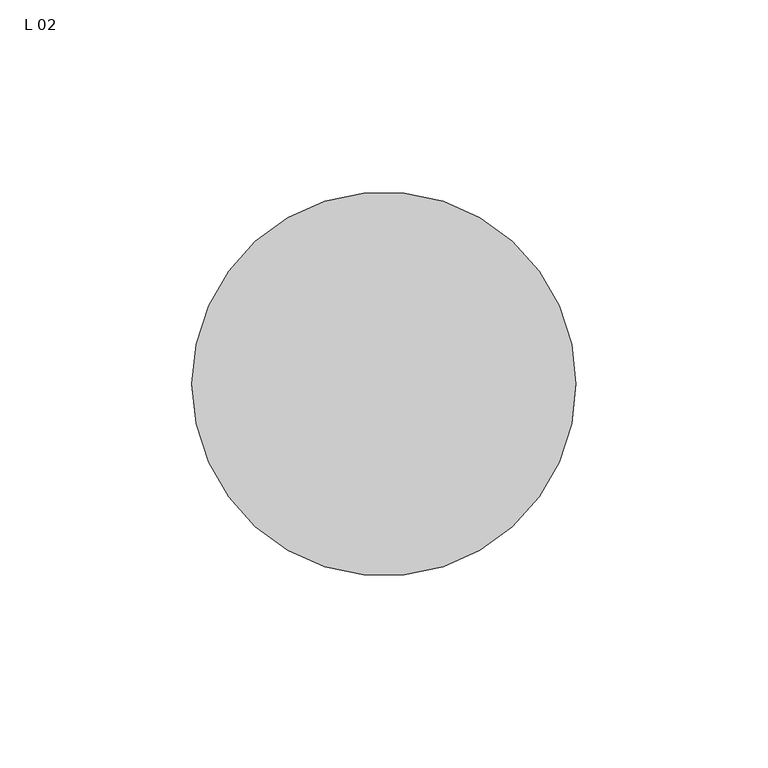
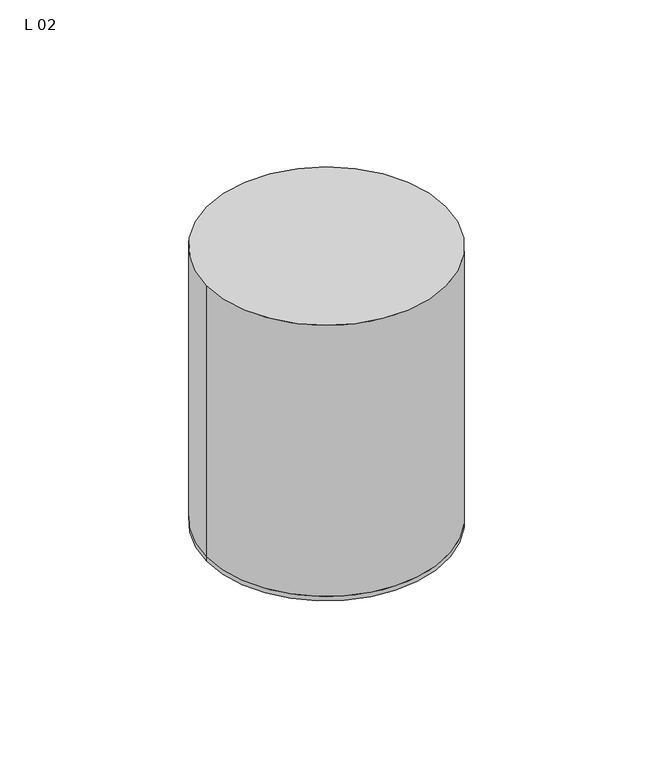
"""IFC4 building model written with IfcOpenShell, lengths in millimetres: light fixture geometry, ZYR_06.02.02 Down Superficie : L 02."""

from ifc_helpers import new_model, si_unit, point, frame, origin, origin_2d, place, context, project, spatial, circle_curve, trimmed, segment, composite_curve, outline, extrude, source, transform, mapped, element, save


def l_02_07f83e36(model_context):
    return source(origin(), model_context, "Body", "SweptSolid", [
        extrude(outline(composite_curve([segment(trimmed(circle_curve(origin_2d(), 50.0), [point((-50.0, 0.0))], [point((50.0, 0.0))], False, "CARTESIAN"), True, "CONTINUOUS"), segment(trimmed(circle_curve(origin_2d(), 50.0), [point((50.0, 0.0))], [point((-50.0, 0.0))], False, "CARTESIAN"), True, "CONTINUOUS")], self_intersect=False)), frame((0.0, 0.0, -120.0), z_axis=(0.0, 0.0, 1.0), x_axis=(1.0, 0.0, 0.0)), (0.0, 0.0, 1.0), 120.0),
        extrude(outline(composite_curve([segment(trimmed(circle_curve(origin_2d(), 50.0), [point((-50.0, 0.0))], [point((50.0, 0.0))], False, "CARTESIAN"), True, "CONTINUOUS"), segment(trimmed(circle_curve(origin_2d(), 50.0), [point((50.0, 0.0))], [point((-50.0, 0.0))], False, "CARTESIAN"), True, "CONTINUOUS")], self_intersect=False)), frame((0.0, 0.0, -122.0), z_axis=(0.0, 0.0, 1.0), x_axis=(1.0, 0.0, 0.0)), (0.0, 0.0, 1.0), 2.0),
    ])


if __name__ == "__main__":
    model = new_model("IFC4")
    model_context = context("Model", 3, world=origin())
    ifc_project = project(units=[si_unit("LENGTHUNIT", "METRE", prefix="MILLI")], contexts=[model_context])
    site = spatial("IfcSite", under=ifc_project)
    building = spatial("IfcBuilding", under=site)
    placement = place(None, origin())
    l_02_shape = l_02_07f83e36(model_context)
    element("IfcLightFixture", 1, ObjectType="ZYR_06.02.02 Down Superficie : L 02", at=placement, inside=building, context=model_context, shape_type="MappedRepresentation", body=[
        mapped(l_02_shape, transform((0.0, 0.0, 0.0), x_axis=(1.0, 0.0, 0.0), y_axis=(0.0, 1.0, 0.0), z_axis=(0.0, 0.0, 1.0))),
    ])
    save(model, "model.ifc")
